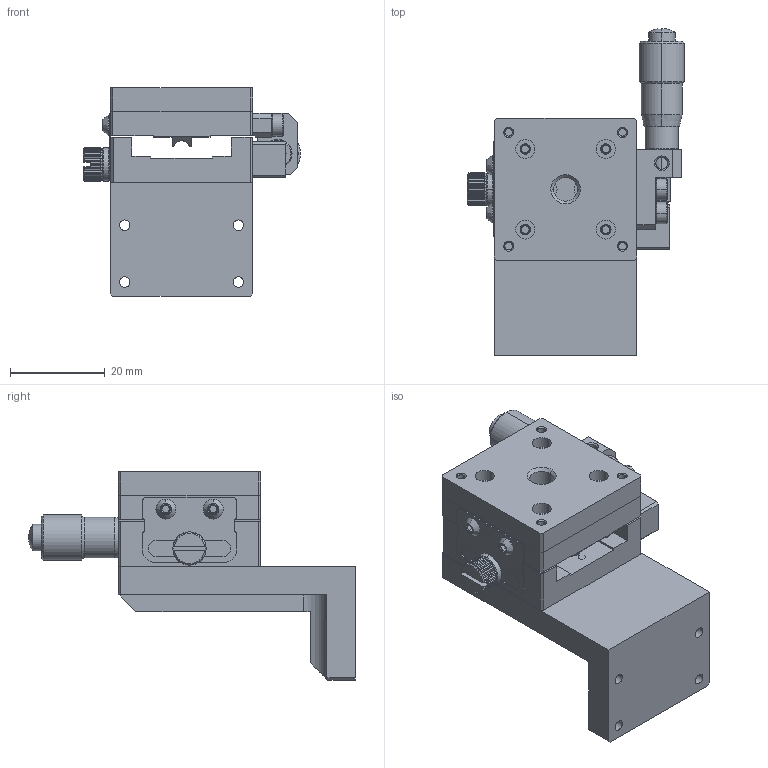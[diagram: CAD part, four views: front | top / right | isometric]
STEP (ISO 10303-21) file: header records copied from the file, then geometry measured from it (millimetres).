
FILE_DESCRIPTION((''),'2;1');
FILE_NAME('030-030-15-ST6-Z-R_ASM','2022-06-22T16:17:42',('windows10'),(''),'CREO PARAMETRIC BY PTC INC, 2018260','CREO PARAMETRIC BY PTC INC, 2018260','');
FILE_SCHEMA(('CONFIG_CONTROL_DESIGN'));
Length unit declared in the file: millimetre
Products named in the file (14): BRACKET-L-30; BOTTOM-30-15-NEW; TOP-30-15-NEW; STOPPER-PLATE-2530; 2D5-4-ROUND; WASHER-7-1D4; STOPPER-M2D5-8-8; PIN-BLOCK-30; HEAD-BLOCK-2530-R; 2D5-8; MICRO-HEAD-6D5-SJP; 030-030-15-ST6-X-R_ASM; TOP-30-Z; 030-030-15-ST6-Z-R_ASM
Assembly tree (15 placements, depth 3):
  030-030-15-ST6-Z-R_ASM
    BRACKET-L-30
    030-030-15-ST6-X-R_ASM
      BOTTOM-30-15-NEW
      TOP-30-15-NEW
      STOPPER-PLATE-2530
      2D5-4-ROUND  x2
      WASHER-7-1D4
      STOPPER-M2D5-8-8
      PIN-BLOCK-30
      HEAD-BLOCK-2530-R
      2D5-8  x2
      MICRO-HEAD-6D5-SJP
    TOP-30-Z
Bounding box: 45.8 x 68.95 x 44 mm (x, y, z)
Volume: 30532.3 mm3; surface area: 19834.4 mm2
Topology: 15 solids, 16 shells, 817 faces, 2036 edges, 1316 vertices
Faces by surface type: plane 405, cylinder 280, cone 112, bspline 8, torus 8, sphere 4
Entity records: 24598 total; most frequent: CARTESIAN_POINT 5365, DIRECTION 3994, ORIENTED_EDGE 3888, EDGE_CURVE 1946, AXIS2_PLACEMENT_3D 1518, VERTEX_POINT 1262, VECTOR 958, LINE 958
